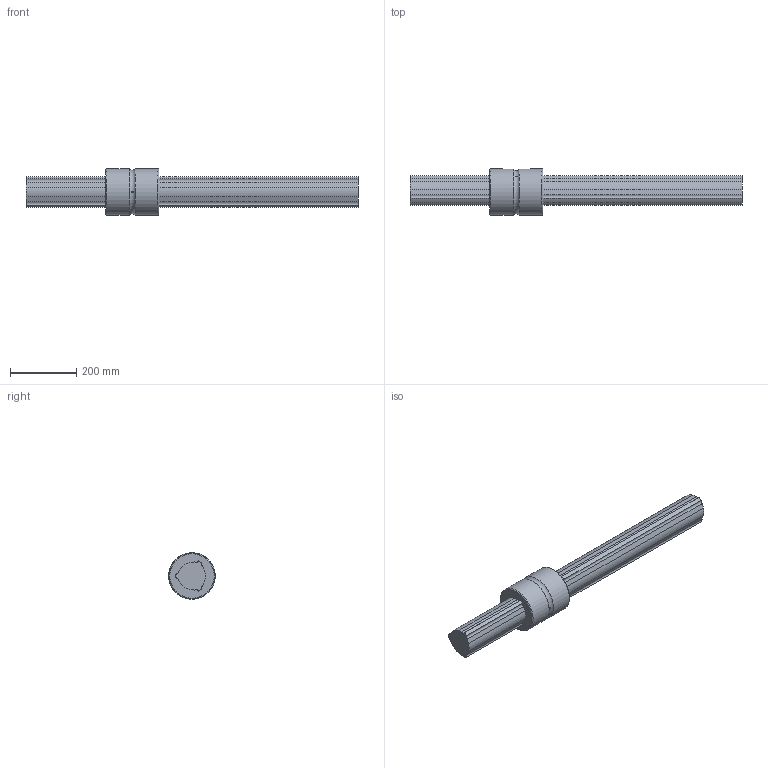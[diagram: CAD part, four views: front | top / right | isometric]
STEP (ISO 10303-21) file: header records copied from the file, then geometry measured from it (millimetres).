
FILE_DESCRIPTION(/* description */ ('STEP AP214'),/* implementation_level */ '2;1');
FILE_NAME(/* name */ 'LBS100+1000L(1602400)',/* time_stamp */ '2024-09-04T12:51:48+02:00',/* author */ ('License CC BY-ND 4.0'),/* organization */ ('CADENAS'),/* preprocessor_version */ 'ST-DEVELOPER v19.3',/* originating_system */ 'PARTsolutions',/* authorisation */ ' ');
FILE_SCHEMA (('AUTOMOTIVE_DESIGN {1 0 10303 214 3 1 1}'));
Length unit declared in the file: millimetre
Products named in the file (3): LBS100+1000L(1602400); LBS100 Nut; LBS10011000 Spline Shaft
Assembly tree (2 placements, depth 2):
  LBS100+1000L(1602400)
    LBS100 Nut
    LBS10011000 Spline Shaft
Bounding box: 1000 x 140 x 140 mm (x, y, z)
Volume: 7199564.9 mm3; surface area: 442348.9 mm2
Topology: 3 solids, 3 shells, 57 faces, 148 edges, 99 vertices
Faces by surface type: cylinder 31, plane 22, torus 4
Full cylindrical faces by diameter (mm): 5 x3, 140 x2
Entity records: 1810 total; most frequent: CARTESIAN_POINT 355, DIRECTION 306, ORIENTED_EDGE 272, EDGE_CURVE 136, AXIS2_PLACEMENT_3D 118, VERTEX_POINT 94, LINE 70, VECTOR 70
